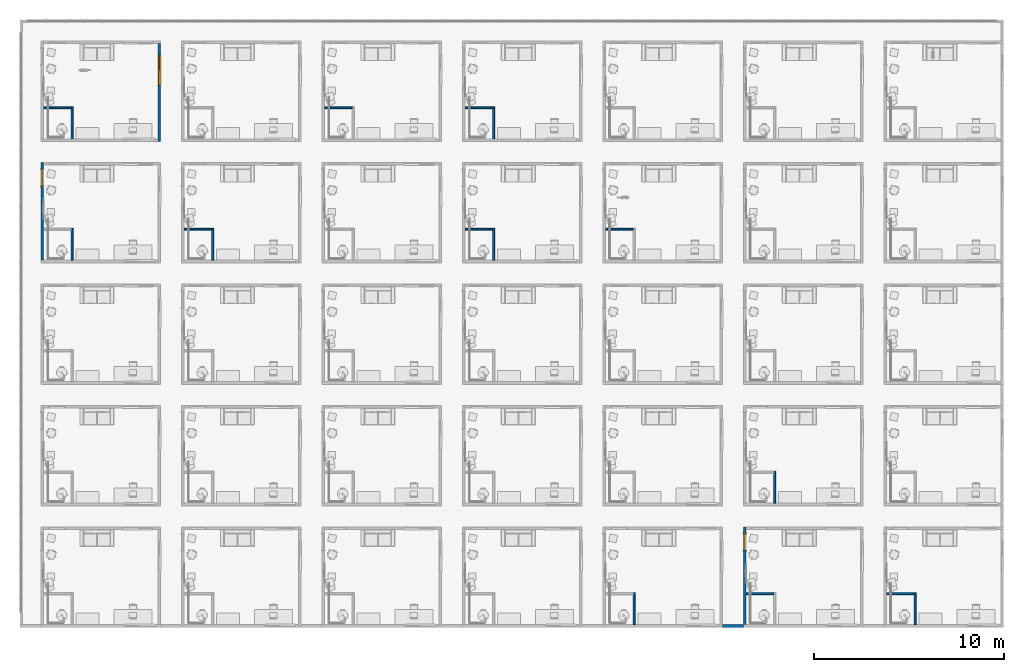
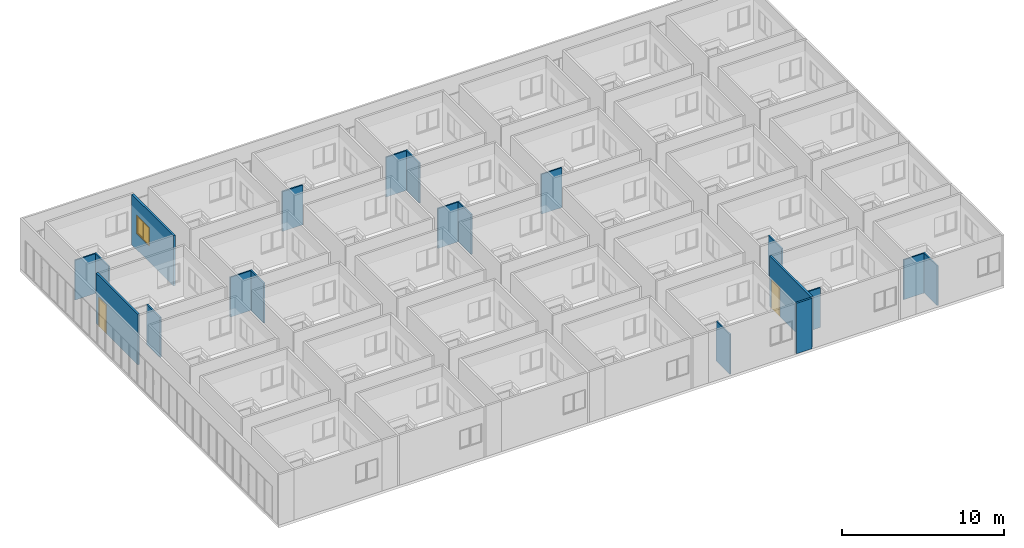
# One storey, part 8 of 71: 20 walls, 2 doors, 1 window, 3 openings.
"""IFC4 building model written with IfcOpenShell, lengths in centimetres."""

from ifc_helpers import new_model, entity, si_unit, converted_unit, derived_unit, direction, frame, origin, place, context, subcontext, project, spatial, indexed_curve, outline, extrude, polygons, source, transform, mapped, material, constituent, constituent_set, type_object, type_shapes, element, fill, save


model = new_model("IFC4")

# Units and contexts
model_context = context("Model", 3, precision=0.001, world=origin(), true_north=direction((6.123233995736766e-17, 1.0)))
body_context = subcontext(model_context, "Body", "Model", "MODEL_VIEW")
ifc_project = project(units=[si_unit("LENGTHUNIT", "METRE", prefix="CENTI"), si_unit("AREAUNIT", "SQUARE_METRE"), si_unit("VOLUMEUNIT", "CUBIC_METRE"), derived_unit("THERMALTRANSMITTANCEUNIT", [(si_unit("MASSUNIT", "GRAM", prefix="KILO"), 1), (si_unit("THERMODYNAMICTEMPERATUREUNIT", "KELVIN"), -1), (si_unit("TIMEUNIT", "SECOND"), -3)]), converted_unit("PLANEANGLEUNIT", "DEGREE", entity("IfcPlaneAngleMeasure", 0.017453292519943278), si_unit("PLANEANGLEUNIT", "RADIAN"), dimensions=[0, 0, 0, 0, 0, 0, 0]), derived_unit("MASSDENSITYUNIT", [(si_unit("MASSUNIT", "GRAM", prefix="KILO"), 1), (si_unit("LENGTHUNIT", "METRE"), -3)]), derived_unit("VAPORPERMEABILITYUNIT", [(si_unit("LENGTHUNIT", "METRE"), -1), (si_unit("TIMEUNIT", "SECOND"), 1)]), derived_unit("USERDEFINED", [(si_unit("MASSUNIT", "GRAM", prefix="KILO"), 1), (si_unit("TIMEUNIT", "SECOND"), -3), (si_unit("LENGTHUNIT", "METRE"), 3), (si_unit("ELECTRICCURRENTUNIT", "AMPERE"), -2)]), derived_unit("SPECIFICHEATCAPACITYUNIT", [(si_unit("THERMODYNAMICTEMPERATUREUNIT", "KELVIN"), -1), (si_unit("LENGTHUNIT", "METRE"), 2), (si_unit("TIMEUNIT", "SECOND"), -2)]), derived_unit("THERMALCONDUCTANCEUNIT", [(si_unit("MASSUNIT", "GRAM", prefix="KILO"), 1), (si_unit("THERMODYNAMICTEMPERATUREUNIT", "KELVIN"), -1), (si_unit("TIMEUNIT", "SECOND"), -3), (si_unit("LENGTHUNIT", "METRE"), 1)]), si_unit("PRESSUREUNIT", "PASCAL"), derived_unit("MODULUSOFELASTICITYUNIT", [(si_unit("MASSUNIT", "GRAM", prefix="KILO"), 1), (si_unit("LENGTHUNIT", "METRE"), -1), (si_unit("TIMEUNIT", "SECOND"), -2)]), derived_unit("THERMALEXPANSIONCOEFFICIENTUNIT", [(si_unit("THERMODYNAMICTEMPERATUREUNIT", "KELVIN"), -1)])], contexts=[model_context])

# Site, building, storey
site_placement = place(None, origin())
site = spatial("IfcSite", under=ifc_project, at=site_placement, Name="Default", CompositionType="ELEMENT")
building_placement = place(site_placement, origin())
building = spatial("IfcBuilding", under=site, at=building_placement, Name="IDS Escape Game Building", CompositionType="ELEMENT")
storey_placement = place(building_placement, frame((0.0, 0.0, 400.0)))
storey = spatial("IfcBuildingStorey", under=building, at=storey_placement, Name="01_First Floor", CompositionType="ELEMENT", Elevation=399.99999999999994)

# Wall, opening, door
ifc_material_1 = material(Name="ARC_FME.g2_Fg2 Masonry_00_gen_BERSnl", Category="g - klei")
wall_type_1 = type_object("IfcWallType", Name="Basic Wall:ARC_22.10_WA_LB_SB14_gen_BERSnl", PredefinedType="STANDARD")
wall_1_placement = place(storey_placement, frame((3690.0, 527.0, 0.0), z_axis=(0.0, 0.0, 1.0), x_axis=(0.0, -1.0, 0.0)))
wall_1 = element("IfcWall", 1, at=wall_1_placement, inside=storey, type_object=wall_type_1, material=ifc_material_1, Name="Basic Wall:ARC_22.10_WA_LB_SB14_gen_BERSnl", ObjectType="Basic Wall:ARC_22.10_WA_LB_SB14_gen_BERSnl", PredefinedType="NOTDEFINED", context=body_context, shape_type="Tessellation", body=[
    polygons([(513.9999999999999, -6.999999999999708, 379.9999999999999), (0.0, -6.999999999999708, 379.9999999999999), (0.0, -6.999999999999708, 0.0), (35.99999999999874, -6.999999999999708, 0.0), (35.99999999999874, -6.999999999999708, 215.00000000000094), (125.99999999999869, -6.999999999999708, 215.00000000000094), (125.99999999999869, -6.999999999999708, 0.0), (513.9999999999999, -6.999999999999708, 0.0), (0.0, 7.000000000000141, 379.9999999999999), (13.999999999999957, 7.000000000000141, 380.0), (513.9999999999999, 7.000000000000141, 379.9999999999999), (513.9999999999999, 7.000000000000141, 0.0), (355.9999999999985, 7.000000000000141, 0.0), (345.9999999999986, 7.000000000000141, 0.0), (125.99999999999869, 7.000000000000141, 0.0), (125.99999999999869, 7.000000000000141, 215.00000000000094), (35.99999999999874, 7.000000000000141, 215.00000000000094), (35.99999999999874, 7.000000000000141, 0.0), (13.999999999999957, 7.000000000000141, 0.0), (0.0, 7.000000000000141, 0.0)], [[[1, 2, 3, 4, 5, 6, 7, 8]], [[9, 10, 11, 12, 13, 14, 15, 16, 17, 18, 19, 20]], [[3, 20, 19, 18, 4]], [[2, 1, 11, 10, 9]], [[17, 5, 4, 18]], [[6, 16, 15, 7]], [[5, 17, 16, 6]], [[3, 2, 9, 20]], [[1, 8, 12, 11]], [[12, 8, 7, 15, 14, 13]]], closed=True),
])
opening_1_placement = place(wall_1_placement, frame((527.0, -3690.0, 0.0), z_axis=(0.0, 0.0, 1.0), x_axis=(0.0, 1.0, 0.0)))
opening_1 = element("IfcOpeningElement", 2, at=opening_1_placement, cuts=wall_1, Name="Basic Wall:ARC_22.10_WA_LB_SB14_gen_BERSnl", PredefinedType="OPENING", context=body_context, shape_type="SweptSolid", body=[
    extrude(outline(indexed_curve([(-137.49999999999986, -45.0), (137.49999999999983, -45.0), (137.49999999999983, 44.99999999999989), (-137.49999999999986, 44.99999999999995), (-137.49999999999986, -45.0)], self_intersect=False)), frame((3600.0, 446.0, 77.50000000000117), z_axis=(1.0, 0.0, 0.0), x_axis=(0.0, 0.0, 1.0)), (0.0, 0.0, 1.0), 166.00000000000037),
])
ifc_material_2 = material(Name="ARC_FME.i3_wood_00_gen_BERSnl", Category="i - hout")
door_type = type_object("IfcDoorType", Name="ARC_32.30_DO_WB_binnendeur enkel draaiend met void_gen_BERSnl:Fire Exit_830x2115_EI60", OperationType="SINGLE_SWING_RIGHT", PredefinedType="DOOR", material=ifc_material_2)
shared_shape_1 = source(origin(), body_context, "Body", "Tessellation", [
    extrude(outline(indexed_curve([(-41.49999999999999, -3.749999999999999), (41.49999999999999, -3.749999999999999), (41.49999999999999, 3.75), (-41.49999999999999, 3.75), (-41.49999999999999, -3.749999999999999)], self_intersect=False)), frame((45.0, 79.24999999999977, 60.0), z_axis=(0.0, 0.0, 1.0), x_axis=(-1.0, 0.0, 0.0)), (0.0, 0.0, 1.0), 211.50000000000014),
    polygons([(88.99999999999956, 82.99999999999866, 59.999999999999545), (88.9999999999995, 67.99999999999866, 59.999999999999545), (94.99999999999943, 67.99999999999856, 59.999999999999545), (94.99999999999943, 66.49999999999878, 59.999999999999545), (84.99999999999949, 66.4999999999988, 59.999999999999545), (84.99999999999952, 75.49999999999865, 59.999999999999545), (86.49999999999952, 75.49999999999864, 59.999999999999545), (86.49999999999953, 84.49999999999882, 59.999999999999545), (94.99999999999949, 84.49999999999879, 59.999999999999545), (94.99999999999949, 82.99999999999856, 59.999999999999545), (88.99999999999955, 82.99999999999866, 274.0000000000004), (88.9999999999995, 67.99999999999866, 274.0000000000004), (0.9999999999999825, 67.99999999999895, 274.0000000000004), (0.9999999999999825, 67.99999999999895, 59.99999999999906), (-4.999999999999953, 67.99999999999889, 59.99999999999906), (-4.999999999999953, 67.99999999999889, 280.00000000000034), (94.99999999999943, 67.99999999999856, 280.00000000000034), (94.99999999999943, 66.49999999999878, 280.00000000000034), (-4.999999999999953, 66.4999999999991, 280.00000000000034), (-4.999999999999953, 66.4999999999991, 59.99999999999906), (4.999999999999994, 66.49999999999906, 59.99999999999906), (4.999999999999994, 66.49999999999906, 270.00000000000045), (84.99999999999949, 66.4999999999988, 270.00000000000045), (84.99999999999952, 75.49999999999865, 270.00000000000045), (5.000000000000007, 75.4999999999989, 270.00000000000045), (5.0, 75.4999999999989, 59.99999999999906), (3.5000000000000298, 75.4999999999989, 59.99999999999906), (3.500000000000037, 75.4999999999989, 271.50000000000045), (86.4999999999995, 75.49999999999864, 271.50000000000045), (86.49999999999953, 84.49999999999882, 271.50000000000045), (3.5000000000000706, 84.49999999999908, 271.50000000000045), (3.500000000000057, 84.49999999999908, 59.99999999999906), (-4.999999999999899, 84.4999999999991, 59.99999999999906), (-4.999999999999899, 84.4999999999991, 280.00000000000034), (94.99999999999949, 84.49999999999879, 280.00000000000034), (94.99999999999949, 82.99999999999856, 280.00000000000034), (-4.999999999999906, 82.99999999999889, 280.00000000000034), (-4.999999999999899, 82.99999999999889, 59.99999999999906), (1.0000000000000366, 82.99999999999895, 59.99999999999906), (1.0000000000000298, 82.99999999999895, 274.0000000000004)], [[[1, 2, 3, 4, 5, 6, 7, 8, 9, 10]], [[2, 1, 11, 12]], [[3, 2, 12, 13, 14, 15, 16, 17]], [[4, 3, 17, 18]], [[5, 4, 18, 19, 20, 21, 22, 23]], [[6, 5, 23, 24]], [[7, 6, 24, 25, 26, 27, 28, 29]], [[8, 7, 29, 30]], [[9, 8, 30, 31, 32, 33, 34, 35]], [[10, 9, 35, 36]], [[1, 10, 36, 37, 38, 39, 40, 11]], [[37, 34, 33, 38]], [[39, 38, 33, 32, 27, 26, 21, 20, 15, 14]], [[13, 40, 39, 14]], [[31, 28, 27, 32]], [[25, 22, 21, 26]], [[19, 16, 15, 20]], [[36, 35, 34, 37]], [[30, 29, 28, 31]], [[24, 23, 22, 25]], [[18, 17, 16, 19]], [[12, 11, 40, 13]]], closed=True),
])
type_shapes(door_type, [shared_shape_1])
door_1_placement = place(opening_1_placement, frame((3766.0, 401.0, -60.0), z_axis=(0.0, 0.0, 1.0), x_axis=(0.0, 1.0, 0.0)))
door_1 = element("IfcDoor", 3, at=door_1_placement, inside=storey, type_object=door_type, material=ifc_material_2, Name="ARC_32.30_DO_WB_binnendeur enkel draaiend met void_gen_BERSnl:Fire Exit_830x2115_EI60", ObjectType="ARC_32.30_DO_WB_binnendeur enkel draaiend met void_gen_BERSnl:Fire Exit_830x2115_EI60", OverallHeight=274.99999999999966, OverallWidth=89.9999999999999, PredefinedType="DOOR", context=body_context, shape_type="MappedRepresentation", body=[
    mapped(shared_shape_1, transform((0.0, 0.0, 0.0), scale=1.0)),
])
fill(opening_1, door_1)

wall_2_placement = place(storey_placement, frame((0.0, 2441.0, 0.0), z_axis=(0.0, 0.0, 1.0), x_axis=(0.0, -1.0, 0.0)))
wall_2 = element("IfcWall", 4, at=wall_2_placement, inside=storey, type_object=wall_type_1, material=ifc_material_1, Name="Basic Wall:ARC_22.10_WA_LB_SB14_gen_BERSnl", ObjectType="Basic Wall:ARC_22.10_WA_LB_SB14_gen_BERSnl", PredefinedType="NOTDEFINED", context=body_context, shape_type="Tessellation", body=[
    polygons([(513.9999999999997, -7.0, 379.9999999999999), (0.0, -7.0, 379.9999999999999), (0.0, -7.0, 0.0), (35.99999999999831, -7.0, 0.0), (35.99999999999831, -7.000000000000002, 215.00000000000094), (125.99999999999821, -7.000000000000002, 215.00000000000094), (125.99999999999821, -7.0, 0.0), (513.9999999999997, -7.0, 0.0), (0.0, 7.0, 379.9999999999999), (13.999999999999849, 7.0, 380.0), (513.9999999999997, 7.0, 379.9999999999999), (513.9999999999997, 7.0, 0.0), (355.99999999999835, 7.0, 0.0), (345.9999999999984, 7.0, 0.0), (125.99999999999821, 7.0, 0.0), (125.99999999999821, 6.9999999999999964, 215.00000000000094), (35.99999999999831, 7.000000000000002, 215.00000000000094), (35.99999999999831, 7.0, 0.0), (13.999999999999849, 7.0, 0.0), (0.0, 7.0, 0.0)], [[[1, 2, 3, 4, 5, 6, 7, 8]], [[9, 10, 11, 12, 13, 14, 15, 16, 17, 18, 19, 20]], [[3, 20, 19, 18, 4]], [[2, 1, 11, 10, 9]], [[17, 5, 4, 18]], [[6, 16, 15, 7]], [[5, 17, 16, 6]], [[3, 2, 9, 20]], [[1, 8, 12, 11]], [[12, 8, 7, 15, 14, 13]]], closed=True),
])
opening_2_placement = place(wall_2_placement, frame((2441.0, 0.0, 0.0), z_axis=(0.0, 0.0, 1.0), x_axis=(0.0, 1.0, 0.0)))
opening_2 = element("IfcOpeningElement", 5, at=opening_2_placement, cuts=wall_2, Name="Basic Wall:ARC_22.10_WA_LB_SB14_gen_BERSnl", PredefinedType="OPENING", context=body_context, shape_type="SweptSolid", body=[
    extrude(outline(indexed_curve([(-137.49999999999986, -45.00000000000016), (137.49999999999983, -45.00000000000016), (137.49999999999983, 44.99999999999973), (-137.49999999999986, 44.99999999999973), (-137.49999999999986, -45.00000000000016)], self_intersect=False)), frame((-90.0, 2360.0, 77.50000000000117), z_axis=(1.0, 0.0, 0.0), x_axis=(0.0, 0.0, 1.0)), (0.0, 0.0, 1.0), 166.0),
])
door_2_placement = place(opening_2_placement, frame((76.0, 2315.0, -60.0), z_axis=(0.0, 0.0, 1.0), x_axis=(0.0, 1.0, 0.0)))
door_2 = element("IfcDoor", 6, at=door_2_placement, inside=storey, type_object=door_type, material=ifc_material_2, Name="ARC_32.30_DO_WB_binnendeur enkel draaiend met void_gen_BERSnl:Fire Exit_830x2115_EI60", ObjectType="ARC_32.30_DO_WB_binnendeur enkel draaiend met void_gen_BERSnl:Fire Exit_830x2115_EI60", OverallHeight=274.99999999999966, OverallWidth=89.9999999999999, PredefinedType="DOOR", context=body_context, shape_type="MappedRepresentation", body=[
    mapped(shared_shape_1, transform((0.0, 0.0, 0.0), scale=1.0)),
])
fill(opening_2, door_2)

# Wall, opening, window
wall_3_placement = place(storey_placement, frame((614.0, 2551.0, 0.0), z_axis=(0.0, 0.0, 1.0), x_axis=(0.0, 1.0, 0.0)))
wall_3 = element("IfcWall", 7, at=wall_3_placement, inside=storey, type_object=wall_type_1, material=ifc_material_1, Name="Basic Wall:ARC_22.10_WA_LB_SB14_gen_BERSnl", ObjectType="Basic Wall:ARC_22.10_WA_LB_SB14_gen_BERSnl", PredefinedType="NOTDEFINED", context=body_context, shape_type="Tessellation", body=[
    polygons([(0.0, -6.9999999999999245, 0.0), (513.9999999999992, -6.9999999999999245, 0.0), (513.9999999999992, -6.9999999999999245, 379.9999999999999), (0.0, -6.9999999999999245, 379.9999999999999), (454.00000000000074, -6.999999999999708, 260.0000000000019), (454.00000000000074, -6.9999999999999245, 120.0), (294.00000000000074, -7.000000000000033, 120.0), (294.00000000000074, -6.999999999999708, 260.0000000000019), (454.00000000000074, 7.000000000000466, 120.0), (454.00000000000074, 7.000000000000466, 260.0000000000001), (294.00000000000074, 7.000000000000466, 260.0000000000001), (294.00000000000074, 7.000000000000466, 120.0), (0.0, 7.000000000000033, 0.0), (0.0, 7.000000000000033, 379.9999999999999), (13.999999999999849, 7.000000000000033, 380.0), (513.9999999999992, 7.000000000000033, 379.9999999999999), (513.9999999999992, 7.000000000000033, 0.0), (13.999999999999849, 7.000000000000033, 0.0)], [[[1, 2, 3, 4], [5, 6, 7, 8]], [[13, 14, 15, 16, 17, 18], [9, 10, 11, 12]], [[2, 1, 13, 18, 17]], [[4, 3, 16, 15, 14]], [[10, 9, 6, 5]], [[7, 12, 11, 8]], [[10, 5, 8, 11]], [[12, 7, 6, 9]], [[1, 4, 14, 13]], [[3, 2, 17, 16]]], closed=True),
])
opening_3_placement = place(wall_3_placement, frame((-2551.0, 614.0, 120.0), z_axis=(0.0, 0.0, 1.0), x_axis=(0.0, -1.0, 0.0)))
opening_3 = element("IfcOpeningElement", 8, at=opening_3_placement, cuts=wall_3, Name="Basic Wall:ARC_22.10_WA_LB_SB14_gen_BERSnl", PredefinedType="OPENING", context=body_context, shape_type="Tessellation", body=[
    polygons([(607.0, 3005.000000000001, 0.0), (607.0, 3005.000000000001, -1.0), (602.0, 3005.000000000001, -1.0), (602.0, 3005.000000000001, 0.0), (606.9999999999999, 2845.000000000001, 0.0), (601.9999999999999, 2845.000000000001, 0.0), (601.9999999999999, 2845.000000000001, -1.0), (606.9999999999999, 2845.000000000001, -1.0), (606.9999999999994, 3000.000000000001, 0.0), (606.9999999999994, 2850.000000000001, 0.0), (601.9999999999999, 2850.0000000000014, 0.0), (601.9999999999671, 2850.0000000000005, 134.99999999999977), (601.9999999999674, 3000.0000000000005, 134.99999999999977), (601.9999999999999, 3000.000000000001, 0.0), (626.0368251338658, 3005.000000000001, 0.0), (606.9999999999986, 3005.000000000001, 0.0), (606.9999999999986, 3005.000000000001, 140.00000000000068), (626.0368251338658, 3005.000000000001, 140.00000000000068), (626.0368251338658, 2845.000000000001, 140.0000000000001), (606.9999999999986, 2845.000000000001, 140.0000000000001), (606.9999999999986, 2845.000000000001, 0.0), (626.0368251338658, 2845.000000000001, 0.0), (606.9999999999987, 3000.0000000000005, 134.99999999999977), (606.9999999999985, 2850.0000000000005, 134.99999999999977)], [[[1, 2, 3, 4]], [[5, 6, 7, 8]], [[1, 9, 10, 5, 8, 2]], [[2, 8, 7, 3]], [[3, 7, 6, 11, 12, 13, 14, 4]], [[4, 14, 9, 1]], [[15, 16, 17, 18]], [[19, 20, 21, 22]], [[18, 17, 20, 19]], [[18, 19, 22, 15]], [[17, 16, 9, 23, 24, 10, 21, 20]], [[22, 21, 10, 9, 16, 15]], [[11, 10, 24, 12]], [[13, 23, 9, 14]], [[12, 24, 23, 13]], [[5, 10, 11, 6]]], closed=True),
])
ifc_material_3 = material(Name="<Unnamed>")
ifc_constituent_1 = constituent(ifc_material_3, Name="<Unnamed>", fraction=0.0)
ifc_material_4 = material(Name="ARC_FME.o1_glass_00_gen_BERSnl", Category="o - glas")
ifc_constituent_2 = constituent(ifc_material_4, Name="ARC_FME.o1_glass_00_gen_BERSnl", Category="o - glas", fraction=1.0)
ifc_constituent_set_1 = constituent_set(constituents=[ifc_constituent_1, ifc_constituent_2])
ifc_constituent_3 = constituent(ifc_material_3, Name="BE Tablet", fraction=0.0)
ifc_constituent_4 = constituent(ifc_material_3, Name="Frame/Mullion", fraction=0.0)
ifc_constituent_5 = constituent(ifc_material_4, Name="Glass", Category="o - glas", fraction=1.0)
ifc_constituent_set_2 = constituent_set(constituents=[ifc_constituent_3, ifc_constituent_4, ifc_constituent_5])
window_type = type_object("IfcWindowType", Name="ARC_31_WI_WB_Dubbel Raam-Recht-Vast en Draaiend_gen_BERSnl:Links-Draaiend / Rechts-Draaiend", PartitioningType="NOTDEFINED", PredefinedType="WINDOW", material=ifc_constituent_set_2)
shared_shape_2 = source(origin(), body_context, "Body", "Tessellation", [
    extrude(outline(indexed_curve([(-80.00000000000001, -4.999999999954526), (80.00000000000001, -4.999999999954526), (80.00000000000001, 4.999999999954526), (-80.00000000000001, 4.999999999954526), (-80.00000000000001, -4.999999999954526)], self_intersect=False)), frame((80.0, 7.036825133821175, 1.0), z_axis=(0.0, 0.0, 1.0), x_axis=(-1.0, 0.0, 0.0)), (0.0, 0.0, 1.0), 2.000000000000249),
    extrude(outline(indexed_curve([(-2.9999999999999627, -3.000000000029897), (-7.656209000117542e-14, -3.000000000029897), (-7.064016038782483e-14, 5.979964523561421e-11), (3.0000000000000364, 5.978991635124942e-11), (3.0000000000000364, 2.9999999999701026), (-2.9999999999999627, 2.9999999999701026), (-2.9999999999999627, -3.000000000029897)], self_intersect=False)), frame((80.0, 15.03682513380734, 7.0)), (0.0, 0.0, 1.0), 128.00000000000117),
    extrude(outline(indexed_curve([(-35.499999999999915, -1.2000000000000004), (35.499999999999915, -1.2000000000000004), (35.49999999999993, 1.2), (-35.499999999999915, 1.2), (-35.499999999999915, -1.2000000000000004)], self_intersect=False)), frame((41.50000000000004, 15.036825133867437, 7.0), z_axis=(0.0, 0.0, 1.0), x_axis=(-1.0, 0.0, 0.0)), (0.0, 0.0, 1.0), 128.000000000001),
    extrude(outline(indexed_curve([(-67.00000000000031, -38.500000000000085), (67.00000000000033, -38.5000000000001), (67.00000000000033, 38.50000000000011), (-67.00000000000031, 38.50000000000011), (-67.00000000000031, -38.500000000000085)], self_intersect=False), holes=[indexed_curve([(61.00000000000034, -32.50000000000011), (-61.00000000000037, -32.500000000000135), (-61.00000000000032, 32.50000000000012), (61.00000000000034, 32.50000000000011), (61.00000000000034, -32.50000000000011)], self_intersect=False)]), frame((118.5, 9.03682513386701, 71.0), z_axis=(0.0, 1.0, 0.0), x_axis=(0.0, 0.0, -1.0)), (0.0, 0.0, 1.0), 6.0),
    extrude(outline(indexed_curve([(-32.500000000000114, -1.2000000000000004), (32.500000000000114, -1.2000000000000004), (32.500000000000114, 1.2000000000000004), (-32.500000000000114, 1.2000000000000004), (-32.500000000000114, -1.2000000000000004)], self_intersect=False)), frame((118.5, 12.036825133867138, 10.0), z_axis=(0.0, 0.0, 1.0), x_axis=(-1.0, 0.0, 0.0)), (0.0, 0.0, 1.0), 122.00000000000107),
    polygons([(160.00000000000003, 18.03682513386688, 141.00000000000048), (160.00000000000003, 18.03682513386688, 1.0000000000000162), (4.0607517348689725e-14, 18.036825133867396, 1.0000000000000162), (4.0607517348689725e-14, 18.036825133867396, 141.00000000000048), (6.000000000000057, 18.03682513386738, 135.00000000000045), (6.000000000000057, 18.03682513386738, 7.000000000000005), (76.99999999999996, 18.03682513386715, 7.000000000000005), (154.00000000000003, 18.0368251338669, 7.000000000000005), (154.00000000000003, 18.0368251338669, 135.00000000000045), (76.99999999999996, 18.03682513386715, 135.00000000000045), (160.0, 12.03682513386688, 141.00000000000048), (160.0, 12.03682513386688, 1.0000000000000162), (2.7071678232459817e-14, 12.036825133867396, 1.0000000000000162), (2.7071678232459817e-14, 12.036825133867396, 141.00000000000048), (6.000000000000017, 12.036825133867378, 135.00000000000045), (6.000000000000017, 12.036825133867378, 7.000000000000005), (76.99999999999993, 12.036825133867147, 7.000000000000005), (79.99999999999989, 12.036825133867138, 7.000000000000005), (79.9999999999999, 15.036825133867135, 7.000000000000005), (154.00000000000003, 15.0368251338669, 7.000000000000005), (154.00000000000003, 15.036825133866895, 135.00000000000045), (76.99999999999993, 12.036825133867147, 135.00000000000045), (79.99999999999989, 12.036825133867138, 135.00000000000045), (79.99999999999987, 12.036825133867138, 138.00000000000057), (157.00000000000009, 12.036825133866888, 138.00000000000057), (157.00000000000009, 12.036825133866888, 3.9999999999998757), (79.99999999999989, 12.036825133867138, 3.9999999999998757), (157.0000000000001, 15.036825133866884, 3.9999999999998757), (157.0000000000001, 15.036825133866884, 138.00000000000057), (79.99999999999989, 15.036825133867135, 3.9999999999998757), (79.99999999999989, 15.036825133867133, 138.00000000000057), (79.99999999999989, 15.036825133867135, 135.00000000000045)], [[[1, 2, 3, 4], [5, 6, 7, 8, 9, 10]], [[2, 1, 11, 12]], [[3, 2, 12, 13]], [[4, 3, 13, 14]], [[6, 5, 15, 16]], [[6, 16, 17, 18, 19, 20, 8, 7]], [[9, 8, 20, 21]], [[11, 14, 13, 12], [16, 15, 22, 23, 24, 25, 26, 27, 18, 17]], [[28, 26, 25, 29]], [[30, 27, 26, 28]], [[31, 24, 23, 32]], [[30, 28, 29, 31, 32, 21, 20, 19]], [[1, 4, 14, 11]], [[15, 5, 10, 9, 21, 32, 23, 22]], [[24, 31, 29, 25]], [[27, 30, 19, 18]]], closed=True),
])
type_shapes(window_type, [shared_shape_2])
window_placement = place(opening_3_placement, frame((626.0368251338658, 2845.0, -1.0), z_axis=(0.0, 0.0, 1.0), x_axis=(0.0, 1.0, 0.0)))
window = element("IfcWindow", 9, at=window_placement, inside=storey, type_object=window_type, material=ifc_constituent_set_1, Name="ARC_31_WI_WB_Dubbel Raam-Recht-Vast en Draaiend_gen_BERSnl:Links-Draaiend / Rechts-Draaiend", ObjectType="ARC_31_WI_WB_Dubbel Raam-Recht-Vast en Draaiend_gen_BERSnl:Links-Draaiend / Rechts-Draaiend", OverallHeight=140.00000000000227, OverallWidth=160.0000000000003, PartitioningType="NOTDEFINED", PredefinedType="WINDOW", context=body_context, shape_type="MappedRepresentation", body=[
    mapped(shared_shape_2, transform((0.0, 0.0, 0.0), scale=1.0)),
])
fill(opening_3, window)

# Walls
wall_4_placement = place(storey_placement, frame((3683.0, 6.0, 0.0), z_axis=(0.0, 0.0, 1.0), x_axis=(-1.0, 0.0, 0.0)))
element("IfcWall", 10, at=wall_4_placement, inside=storey, type_object=wall_type_1, material=ifc_material_1, Name="Basic Wall:ARC_22.10_WA_LB_SB14_gen_BERSnl", ObjectType="Basic Wall:ARC_22.10_WA_LB_SB14_gen_BERSnl", PredefinedType="NOTDEFINED", context=body_context, shape_type="SweptSolid", body=[
    extrude(outline(indexed_curve([(110.00000000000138, 7.000000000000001), (-2.2611003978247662e-14, 7.0), (2.2611003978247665e-14, -7.000000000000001), (110.00000000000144, -7.000000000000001), (110.00000000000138, 7.000000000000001)], self_intersect=False)), origin(), (0.0, 0.0, 1.0), 380.0),
])
ifc_material_5 = material(Name="ARC_FME.r2_Plaster_white_gen_BERSnl", Category="r - klei, gips, magnesium en kunststof bindmiddelen")
wall_type_2 = type_object("IfcWallType", Name="Basic Wall:ARC_22.10_WA_LB_GPS10_gen_BERSnl", PredefinedType="STANDARD")
wall_5_placement = place(storey_placement, frame((3109.0, 13.0, 0.0), z_axis=(0.0, 0.0, 1.0), x_axis=(0.0, 1.0, 0.0)))
element("IfcWall", 11, at=wall_5_placement, inside=storey, type_object=wall_type_2, material=ifc_material_5, Name="Basic Wall:ARC_22.10_WA_LB_GPS10_gen_BERSnl", ObjectType="Basic Wall:ARC_22.10_WA_LB_GPS10_gen_BERSnl", PredefinedType="NOTDEFINED", context=body_context, shape_type="SweptSolid", body=[
    extrude(outline(indexed_curve([(168.00000000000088, 4.9999999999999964), (-1.1881077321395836e-15, 5.0000000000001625), (-5.038721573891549e-16, -5.0000000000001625), (168.00000000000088, -5.000000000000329), (168.00000000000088, 4.9999999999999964)], self_intersect=False)), origin(), (0.0, 0.0, 1.0), 300.0),
])
wall_6_placement = place(storey_placement, frame((3842.0, 176.0, 0.0), z_axis=(0.0, 0.0, 1.0), x_axis=(-1.0, 0.0, 0.0)))
element("IfcWall", 12, at=wall_6_placement, inside=storey, type_object=wall_type_2, material=ifc_material_5, Name="Basic Wall:ARC_22.10_WA_LB_GPS10_gen_BERSnl", ObjectType="Basic Wall:ARC_22.10_WA_LB_GPS10_gen_BERSnl", PredefinedType="NOTDEFINED", context=body_context, shape_type="SweptSolid", body=[
    extrude(outline(indexed_curve([(144.99999999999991, 5.000000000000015), (-1.6380951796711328e-14, 5.0), (1.6380951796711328e-14, -5.0), (144.99999999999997, -4.999999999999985), (144.99999999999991, 5.000000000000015)], self_intersect=False)), origin(), (0.0, 0.0, 1.0), 300.0),
])
wall_7_placement = place(storey_placement, frame((4585.0, 13.0, 0.0), z_axis=(0.0, 0.0, 1.0), x_axis=(0.0, 1.0, 0.0)))
element("IfcWall", 13, at=wall_7_placement, inside=storey, type_object=wall_type_2, material=ifc_material_5, Name="Basic Wall:ARC_22.10_WA_LB_GPS10_gen_BERSnl", ObjectType="Basic Wall:ARC_22.10_WA_LB_GPS10_gen_BERSnl", PredefinedType="NOTDEFINED", context=body_context, shape_type="SweptSolid", body=[
    extrude(outline(indexed_curve([(168.00000000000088, 4.9999999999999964), (-1.1881077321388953e-15, 4.999999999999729), (-5.038721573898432e-16, -4.999999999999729), (168.00000000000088, -4.999999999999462), (168.00000000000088, 4.9999999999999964)], self_intersect=False)), origin(), (0.0, 0.0, 1.0), 300.0),
])
wall_8_placement = place(storey_placement, frame((4580.0, 176.0, 0.0), z_axis=(0.0, 0.0, 1.0), x_axis=(-1.0, 0.0, 0.0)))
element("IfcWall", 14, at=wall_8_placement, inside=storey, type_object=wall_type_2, material=ifc_material_5, Name="Basic Wall:ARC_22.10_WA_LB_GPS10_gen_BERSnl", ObjectType="Basic Wall:ARC_22.10_WA_LB_GPS10_gen_BERSnl", PredefinedType="NOTDEFINED", context=body_context, shape_type="SweptSolid", body=[
    extrude(outline(indexed_curve([(144.99999999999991, 5.000000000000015), (-1.6380951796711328e-14, 5.0), (1.6380951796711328e-14, -5.0), (144.99999999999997, -4.999999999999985), (144.99999999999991, 5.000000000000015)], self_intersect=False)), origin(), (0.0, 0.0, 1.0), 300.0),
])
wall_9_placement = place(storey_placement, frame((3847.0, 651.0, 0.0), z_axis=(0.0, 0.0, 1.0), x_axis=(0.0, 1.0, 0.0)))
element("IfcWall", 15, at=wall_9_placement, inside=storey, type_object=wall_type_2, material=ifc_material_5, Name="Basic Wall:ARC_22.10_WA_LB_GPS10_gen_BERSnl", ObjectType="Basic Wall:ARC_22.10_WA_LB_GPS10_gen_BERSnl", PredefinedType="NOTDEFINED", context=body_context, shape_type="SweptSolid", body=[
    extrude(outline(indexed_curve([(168.00000000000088, 4.9999999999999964), (-7.956027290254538e-15, 5.0000000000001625), (7.956027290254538e-15, -5.0000000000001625), (168.00000000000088, -5.000000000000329), (168.00000000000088, 4.9999999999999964)], self_intersect=False)), origin(), (0.0, 0.0, 1.0), 300.0),
])
wall_10_placement = place(storey_placement, frame((157.0, 1927.0, 0.0), z_axis=(0.0, 0.0, 1.0), x_axis=(0.0, 1.0, 0.0)))
element("IfcWall", 16, at=wall_10_placement, inside=storey, type_object=wall_type_2, material=ifc_material_5, Name="Basic Wall:ARC_22.10_WA_LB_GPS10_gen_BERSnl", ObjectType="Basic Wall:ARC_22.10_WA_LB_GPS10_gen_BERSnl", PredefinedType="NOTDEFINED", context=body_context, shape_type="SweptSolid", body=[
    extrude(outline(indexed_curve([(168.0000000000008, 4.9999999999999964), (-7.956027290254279e-15, 5.0), (7.956027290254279e-15, -5.0), (168.0000000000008, -5.0000000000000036), (168.0000000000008, 4.9999999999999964)], self_intersect=False)), origin(), (0.0, 0.0, 1.0), 300.0),
])
wall_11_placement = place(storey_placement, frame((895.0, 1927.0, 0.0), z_axis=(0.0, 0.0, 1.0), x_axis=(0.0, 1.0, 0.0)))
element("IfcWall", 17, at=wall_11_placement, inside=storey, type_object=wall_type_2, material=ifc_material_5, Name="Basic Wall:ARC_22.10_WA_LB_GPS10_gen_BERSnl", ObjectType="Basic Wall:ARC_22.10_WA_LB_GPS10_gen_BERSnl", PredefinedType="NOTDEFINED", context=body_context, shape_type="SweptSolid", body=[
    extrude(outline(indexed_curve([(168.0000000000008, 4.999999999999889), (-7.956027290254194e-15, 4.999999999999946), (7.956027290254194e-15, -4.999999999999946), (168.0000000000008, -5.0000000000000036), (168.0000000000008, 4.999999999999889)], self_intersect=False)), origin(), (0.0, 0.0, 1.0), 300.0),
])
wall_12_placement = place(storey_placement, frame((890.0, 2090.0, 0.0), z_axis=(0.0, 0.0, 1.0), x_axis=(-1.0, 0.0, 0.0)))
element("IfcWall", 18, at=wall_12_placement, inside=storey, type_object=wall_type_2, material=ifc_material_5, Name="Basic Wall:ARC_22.10_WA_LB_GPS10_gen_BERSnl", ObjectType="Basic Wall:ARC_22.10_WA_LB_GPS10_gen_BERSnl", PredefinedType="NOTDEFINED", context=body_context, shape_type="SweptSolid", body=[
    extrude(outline(indexed_curve([(145.00000000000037, 5.000000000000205), (-1.6380951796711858e-14, 5.0000000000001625), (1.6380951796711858e-14, -5.0000000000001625), (145.00000000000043, -5.00000000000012), (145.00000000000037, 5.000000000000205)], self_intersect=False)), origin(), (0.0, 0.0, 1.0), 300.0),
])
wall_13_placement = place(storey_placement, frame((2371.0, 1927.0, 0.0), z_axis=(0.0, 0.0, 1.0), x_axis=(0.0, 1.0, 0.0)))
element("IfcWall", 19, at=wall_13_placement, inside=storey, type_object=wall_type_2, material=ifc_material_5, Name="Basic Wall:ARC_22.10_WA_LB_GPS10_gen_BERSnl", ObjectType="Basic Wall:ARC_22.10_WA_LB_GPS10_gen_BERSnl", PredefinedType="NOTDEFINED", context=body_context, shape_type="SweptSolid", body=[
    extrude(outline(indexed_curve([(168.0000000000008, 4.9999999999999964), (-7.956027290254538e-15, 5.0000000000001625), (7.956027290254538e-15, -5.0000000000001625), (168.0000000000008, -5.000000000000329), (168.0000000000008, 4.9999999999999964)], self_intersect=False)), origin(), (0.0, 0.0, 1.0), 300.0),
])
for number, where, z_axis, x_axis in (
    (20, (2366.0, 2090.0, 0.0), (0.0, 0.0, 1.0), (-1.0, 0.0, 0.0)),
    (21, (3104.0, 2090.0, 0.0), (0.0, 0.0, 1.0), (-1.0, 0.0, 0.0)),
):
    element("IfcWall", number, at=place(storey_placement, frame(where, z_axis=z_axis, x_axis=x_axis)), inside=storey, type_object=wall_type_2, material=ifc_material_5, Name="Basic Wall:ARC_22.10_WA_LB_GPS10_gen_BERSnl", ObjectType="Basic Wall:ARC_22.10_WA_LB_GPS10_gen_BERSnl", PredefinedType="NOTDEFINED", context=body_context, shape_type="SweptSolid", body=[
        extrude(outline(indexed_curve([(144.99999999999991, 5.000000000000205), (-1.6380951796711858e-14, 5.0000000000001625), (1.6380951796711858e-14, -5.0000000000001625), (144.99999999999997, -5.00000000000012), (144.99999999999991, 5.000000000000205)], self_intersect=False)), origin(), (0.0, 0.0, 1.0), 300.0),
    ])
wall_14_placement = place(storey_placement, frame((157.0, 2565.0, 0.0), z_axis=(0.0, 0.0, 1.0), x_axis=(0.0, 1.0, 0.0)))
element("IfcWall", 22, at=wall_14_placement, inside=storey, type_object=wall_type_2, material=ifc_material_5, Name="Basic Wall:ARC_22.10_WA_LB_GPS10_gen_BERSnl", ObjectType="Basic Wall:ARC_22.10_WA_LB_GPS10_gen_BERSnl", PredefinedType="NOTDEFINED", context=body_context, shape_type="SweptSolid", body=[
    extrude(outline(indexed_curve([(168.00000000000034, 4.9999999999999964), (-7.956027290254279e-15, 5.0), (7.956027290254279e-15, -5.0), (168.00000000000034, -5.0000000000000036), (168.00000000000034, 4.9999999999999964)], self_intersect=False)), origin(), (0.0, 0.0, 1.0), 300.0),
])
wall_15_placement = place(storey_placement, frame((152.0, 2728.0, 0.0), z_axis=(0.0, 0.0, 1.0), x_axis=(-1.0, 0.0, 0.0)))
element("IfcWall", 23, at=wall_15_placement, inside=storey, type_object=wall_type_2, material=ifc_material_5, Name="Basic Wall:ARC_22.10_WA_LB_GPS10_gen_BERSnl", ObjectType="Basic Wall:ARC_22.10_WA_LB_GPS10_gen_BERSnl", PredefinedType="NOTDEFINED", context=body_context, shape_type="SweptSolid", body=[
    extrude(outline(indexed_curve([(145.00000000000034, 5.000000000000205), (1.0690726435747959e-14, 5.0000000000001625), (-1.0690726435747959e-14, -5.0000000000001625), (145.00000000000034, -5.00000000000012), (145.00000000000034, 5.000000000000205)], self_intersect=False)), origin(), (0.0, 0.0, 1.0), 300.0),
])
wall_16_placement = place(storey_placement, frame((1628.0, 2728.0, 0.0), z_axis=(0.0, 0.0, 1.0), x_axis=(-1.0, 0.0, 0.0)))
element("IfcWall", 24, at=wall_16_placement, inside=storey, type_object=wall_type_2, material=ifc_material_5, Name="Basic Wall:ARC_22.10_WA_LB_GPS10_gen_BERSnl", ObjectType="Basic Wall:ARC_22.10_WA_LB_GPS10_gen_BERSnl", PredefinedType="NOTDEFINED", context=body_context, shape_type="SweptSolid", body=[
    extrude(outline(indexed_curve([(145.00000000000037, 5.000000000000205), (-1.6380951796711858e-14, 5.0000000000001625), (1.6380951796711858e-14, -5.0000000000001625), (145.00000000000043, -5.00000000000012), (145.00000000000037, 5.000000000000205)], self_intersect=False)), origin(), (0.0, 0.0, 1.0), 300.0),
])
wall_17_placement = place(storey_placement, frame((2371.0, 2565.0, 0.0), z_axis=(0.0, 0.0, 1.0), x_axis=(0.0, 1.0, 0.0)))
element("IfcWall", 25, at=wall_17_placement, inside=storey, type_object=wall_type_2, material=ifc_material_5, Name="Basic Wall:ARC_22.10_WA_LB_GPS10_gen_BERSnl", ObjectType="Basic Wall:ARC_22.10_WA_LB_GPS10_gen_BERSnl", PredefinedType="NOTDEFINED", context=body_context, shape_type="SweptSolid", body=[
    extrude(outline(indexed_curve([(168.00000000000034, 4.9999999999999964), (-7.956027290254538e-15, 5.0000000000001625), (7.956027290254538e-15, -5.0000000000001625), (168.00000000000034, -5.000000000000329), (168.00000000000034, 4.9999999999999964)], self_intersect=False)), origin(), (0.0, 0.0, 1.0), 300.0),
])
wall_18_placement = place(storey_placement, frame((2366.0, 2728.0, 0.0), z_axis=(0.0, 0.0, 1.0), x_axis=(-1.0, 0.0, 0.0)))
element("IfcWall", 26, at=wall_18_placement, inside=storey, type_object=wall_type_2, material=ifc_material_5, Name="Basic Wall:ARC_22.10_WA_LB_GPS10_gen_BERSnl", ObjectType="Basic Wall:ARC_22.10_WA_LB_GPS10_gen_BERSnl", PredefinedType="NOTDEFINED", context=body_context, shape_type="SweptSolid", body=[
    extrude(outline(indexed_curve([(144.99999999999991, 5.000000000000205), (-1.6380951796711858e-14, 5.0000000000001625), (1.6380951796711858e-14, -5.0000000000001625), (144.99999999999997, -5.00000000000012), (144.99999999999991, 5.000000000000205)], self_intersect=False)), origin(), (0.0, 0.0, 1.0), 300.0),
])

save(model, "model.ifc")
